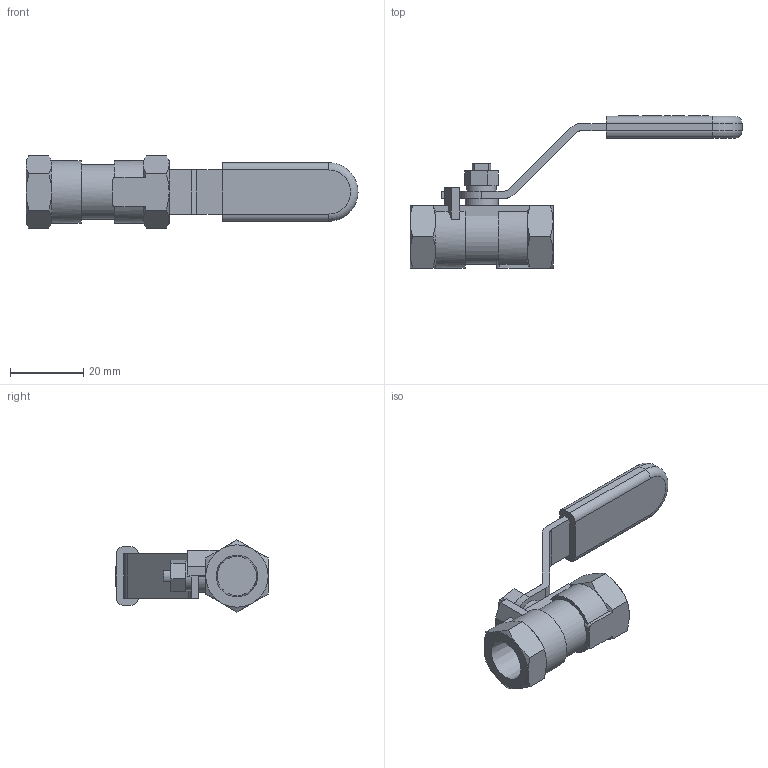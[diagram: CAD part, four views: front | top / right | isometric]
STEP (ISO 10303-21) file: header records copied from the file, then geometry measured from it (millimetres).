
FILE_DESCRIPTION(/* description */ ('Eriks item no: 12427441'),/* implementation_level */ '2;1');
FILE_NAME(/* name */ '7744-DN08-RB-1000PSI-NPT.stp',/* time_stamp */ '2024-02-16T13:18:02+01:00',/* author */ ('roger.thijssen'),/* organization */ (''),/* preprocessor_version */ 'ST-DEVELOPER v19.2',/* originating_system */ 'Autodesk Inventor 2024',/* authorisation */ '');
FILE_SCHEMA (('AUTOMOTIVE_DESIGN { 1 0 10303 214 3 1 1 }'));
Length unit declared in the file: millimetre
Products named in the file (1): Ball valve, 7744-DN08-RB-1000PSI-NPT
Bounding box: 90.5 x 41.5 x 19.63 mm (x, y, z)
Volume: 10998.7 mm3; surface area: 7076.6 mm2
Topology: 1 solids, 1 shells, 325 faces, 834 edges, 543 vertices
Faces by surface type: plane 246, cylinder 49, cone 26, bspline 2, torus 2
Full cylindrical faces by diameter (mm): 8 x1, 9 x1, 10.719 x2
Entity records: 10112 total; most frequent: CARTESIAN_POINT 1857, ORIENTED_EDGE 1668, DIRECTION 1559, EDGE_CURVE 834, LINE 641, VECTOR 641, VERTEX_POINT 543, AXIS2_PLACEMENT_3D 459
